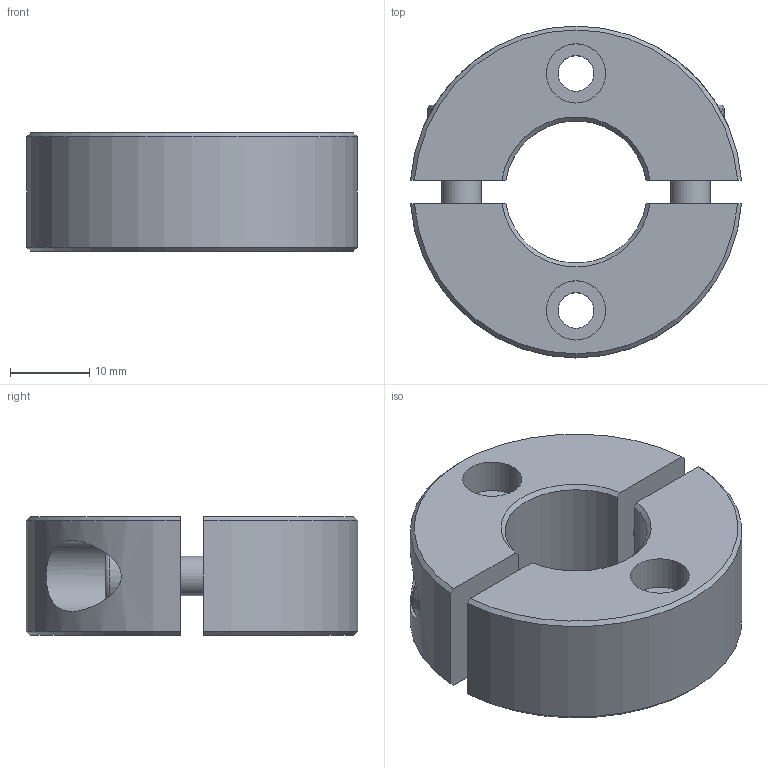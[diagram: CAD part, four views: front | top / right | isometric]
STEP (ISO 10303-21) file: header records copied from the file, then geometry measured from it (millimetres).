
FILE_DESCRIPTION( ( 'STEP AP203' ), '1' );
FILE_NAME( 'C:/Temp/Ganter_Step_05_03_2020/data/3_2/gn7072_2/Split Stainless Steel-Set collar GN 7072.2-42-B18-NI-B.stp', '2020-03-13T05:40:58', ( 'License CC BY-ND 4.0' ), ( 'CADENAS' ), ' ', 'PARTsolutions', ' ' );
FILE_SCHEMA( ( 'CONFIG_CONTROL_DESIGN' ) );
Length unit declared in the file: millimetre
Products named in the file (1): _Split Stainless Steel-Set collar GN 7072.2-42-B18-NI-B
Bounding box: 41.89 x 42 x 15 mm (x, y, z)
Volume: 14558.1 mm3; surface area: 6897.4 mm2
Topology: 1 solids, 1 shells, 56 faces, 131 edges, 89 vertices
Faces by surface type: plane 30, cylinder 16, cone 8, torus 2
Full cylindrical faces by diameter (mm): 4.5 x2, 5 x2, 5.4 x2, 7.5 x2, 8.5 x2, 9 x2
Entity records: 1704 total; most frequent: CARTESIAN_POINT 451, DIRECTION 246, ORIENTED_EDGE 220, EDGE_CURVE 110, AXIS2_PLACEMENT_3D 97, EDGE_LOOP 88, VERTEX_POINT 82, FACE_OUTER_BOUND 70
